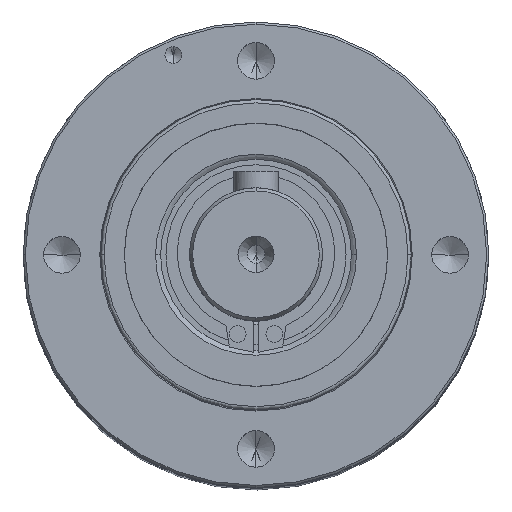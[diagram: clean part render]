
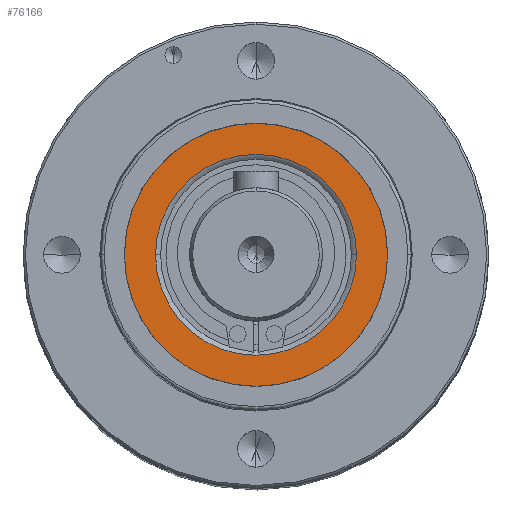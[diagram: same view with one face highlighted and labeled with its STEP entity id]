
A CAD part, top view. The second image highlights one B-rep face of the part: STEP entity #76166.
In plain terms, the highlighted planar face has unit normal (0, 0, 1).
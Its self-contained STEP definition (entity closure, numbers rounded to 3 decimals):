
#4380 = DIRECTION ( 'NONE',  ( 1., 0., 0. ) ) ;
#8252 = EDGE_LOOP ( 'NONE', ( #32006, #72071 ) ) ;
#8670 = CIRCLE ( 'NONE', #70173, 9.06 ) ;
#14075 = DIRECTION ( 'NONE',  ( 0., 0., 1. ) ) ;
#14938 = CARTESIAN_POINT ( 'NONE',  ( 16.996, -8.599, 109.685 ) ) ;
#19525 = VERTEX_POINT ( 'NONE', #14938 ) ;
#20297 = CARTESIAN_POINT ( 'NONE',  ( 5.131, -8.599, 109.685 ) ) ;
#20867 = DIRECTION ( 'NONE',  ( 1., 0., 0. ) ) ;
#23865 = CIRCLE ( 'NONE', #26445, 11.865 ) ;
#25565 = ORIENTED_EDGE ( 'NONE', *, *, #54222, .F. ) ;
#26445 = AXIS2_PLACEMENT_3D ( 'NONE', #20297, #63287, #45148 ) ;
#26468 = CARTESIAN_POINT ( 'NONE',  ( 5.131, -8.599, 109.685 ) ) ;
#28966 = VERTEX_POINT ( 'NONE', #60264 ) ;
#29429 = AXIS2_PLACEMENT_3D ( 'NONE', #26468, #32112, #20867 ) ;
#32006 = ORIENTED_EDGE ( 'NONE', *, *, #55536, .F. ) ;
#32112 = DIRECTION ( 'NONE',  ( 0., 0., 1. ) ) ;
#33173 = VERTEX_POINT ( 'NONE', #34927 ) ;
#33704 = DIRECTION ( 'NONE',  ( 0., 0., -1. ) ) ;
#34927 = CARTESIAN_POINT ( 'NONE',  ( -3.929, -8.599, 109.685 ) ) ;
#40962 = AXIS2_PLACEMENT_3D ( 'NONE', #76679, #33704, #4380 ) ;
#41595 = ORIENTED_EDGE ( 'NONE', *, *, #61477, .T. ) ;
#45148 = DIRECTION ( 'NONE',  ( 1., 0., 0. ) ) ;
#45552 = CARTESIAN_POINT ( 'NONE',  ( -6.734, -8.599, 109.685 ) ) ;
#47332 = CIRCLE ( 'NONE', #40962, 9.06 ) ;
#51162 = AXIS2_PLACEMENT_3D ( 'NONE', #52168, #63527, #57873 ) ;
#51399 = FACE_BOUND ( 'NONE', #8252, .T. ) ;
#52168 = CARTESIAN_POINT ( 'NONE',  ( 5.131, -8.599, 109.685 ) ) ;
#54222 = EDGE_CURVE ( 'NONE', #19525, #65963, #23865, .T. ) ;
#54658 = CARTESIAN_POINT ( 'NONE',  ( 5.131, -8.599, 109.685 ) ) ;
#55536 = EDGE_CURVE ( 'NONE', #28966, #33173, #8670, .T. ) ;
#57873 = DIRECTION ( 'NONE',  ( 1., 0., 0. ) ) ;
#60264 = CARTESIAN_POINT ( 'NONE',  ( 14.191, -8.599, 109.685 ) ) ;
#61477 = EDGE_CURVE ( 'NONE', #19525, #65963, #64028, .T. ) ;
#61549 = EDGE_CURVE ( 'NONE', #28966, #33173, #47332, .T. ) ;
#63122 = DIRECTION ( 'NONE',  ( 1., 0., 0. ) ) ;
#63287 = DIRECTION ( 'NONE',  ( 0., 0., -1. ) ) ;
#63527 = DIRECTION ( 'NONE',  ( 0., 0., 1. ) ) ;
#63928 = FACE_OUTER_BOUND ( 'NONE', #69654, .T. ) ;
#64028 = CIRCLE ( 'NONE', #29429, 11.865 ) ;
#64335 = PLANE ( 'NONE',  #51162 ) ;
#65963 = VERTEX_POINT ( 'NONE', #45552 ) ;
#69654 = EDGE_LOOP ( 'NONE', ( #25565, #41595 ) ) ;
#70173 = AXIS2_PLACEMENT_3D ( 'NONE', #54658, #14075, #63122 ) ;
#72071 = ORIENTED_EDGE ( 'NONE', *, *, #61549, .T. ) ;
#76166 = ADVANCED_FACE ( 'NONE', ( #51399, #63928 ), #64335, .T. ) ;
#76679 = CARTESIAN_POINT ( 'NONE',  ( 5.131, -8.599, 109.685 ) ) ;
